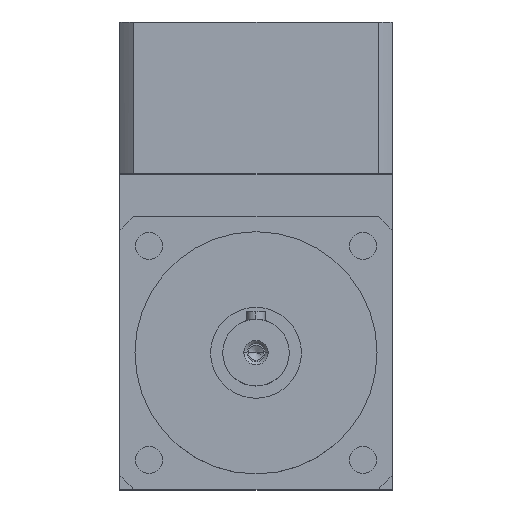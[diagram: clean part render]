
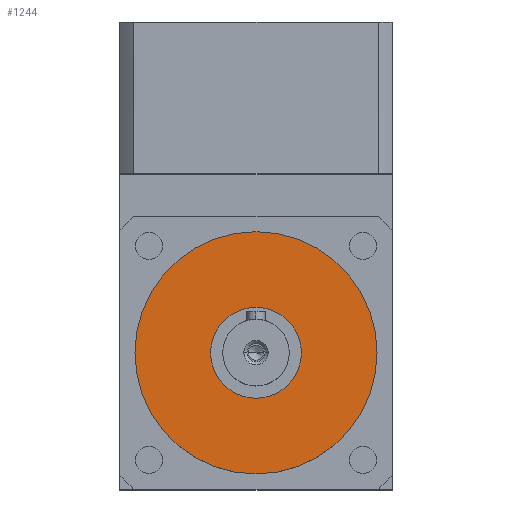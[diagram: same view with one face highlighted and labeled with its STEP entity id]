
A CAD part, top view. The second image highlights one B-rep face of the part: STEP entity #1244.
In plain terms, the highlighted planar face has unit normal (0, 0, 1).
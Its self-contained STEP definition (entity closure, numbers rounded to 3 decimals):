
#18 = DIRECTION ( 'NONE',  ( -1., 0., 0. ) ) ;
#161 = CIRCLE ( 'NONE', #1043, 40. ) ;
#368 = CARTESIAN_POINT ( 'NONE',  ( -15., 0., 10. ) ) ;
#459 = AXIS2_PLACEMENT_3D ( 'NONE', #3508, #1444, #3870 ) ;
#463 = DIRECTION ( 'NONE',  ( 0., 0., -1. ) ) ;
#525 = CARTESIAN_POINT ( 'NONE',  ( 0., 0., 10. ) ) ;
#537 = CARTESIAN_POINT ( 'NONE',  ( 40., 0., 10. ) ) ;
#576 = EDGE_CURVE ( 'NONE', #592, #675, #2920, .T. ) ;
#592 = VERTEX_POINT ( 'NONE', #537 ) ;
#675 = VERTEX_POINT ( 'NONE', #2183 ) ;
#771 = DIRECTION ( 'NONE',  ( -1., 0., 0. ) ) ;
#1043 = AXIS2_PLACEMENT_3D ( 'NONE', #4149, #2084, #18 ) ;
#1077 = FACE_OUTER_BOUND ( 'NONE', #4476, .T. ) ;
#1244 = ADVANCED_FACE ( 'NONE', ( #3846, #1077 ), #4078, .F. ) ;
#1260 = AXIS2_PLACEMENT_3D ( 'NONE', #525, #463, #771 ) ;
#1358 = EDGE_CURVE ( 'NONE', #2059, #1923, #3304, .T. ) ;
#1444 = DIRECTION ( 'NONE',  ( 0., 0., -1. ) ) ;
#1496 = EDGE_CURVE ( 'NONE', #1923, #2059, #2053, .T. ) ;
#1499 = CARTESIAN_POINT ( 'NONE',  ( 15., 0., 10. ) ) ;
#1515 = ORIENTED_EDGE ( 'NONE', *, *, #2508, .F. ) ;
#1625 = ORIENTED_EDGE ( 'NONE', *, *, #576, .F. ) ;
#1923 = VERTEX_POINT ( 'NONE', #368 ) ;
#1927 = AXIS2_PLACEMENT_3D ( 'NONE', #2334, #2009, #4416 ) ;
#2009 = DIRECTION ( 'NONE',  ( 0., 0., -1. ) ) ;
#2053 = CIRCLE ( 'NONE', #459, 15. ) ;
#2059 = VERTEX_POINT ( 'NONE', #1499 ) ;
#2065 = CARTESIAN_POINT ( 'NONE',  ( 0., 0., 10. ) ) ;
#2084 = DIRECTION ( 'NONE',  ( 0., 0., -1. ) ) ;
#2183 = CARTESIAN_POINT ( 'NONE',  ( -40., 0., 10. ) ) ;
#2334 = CARTESIAN_POINT ( 'NONE',  ( 0., 0., 10. ) ) ;
#2405 = DIRECTION ( 'NONE',  ( -1., 0., 0. ) ) ;
#2462 = ORIENTED_EDGE ( 'NONE', *, *, #1358, .T. ) ;
#2508 = EDGE_CURVE ( 'NONE', #675, #592, #161, .T. ) ;
#2920 = CIRCLE ( 'NONE', #1260, 40. ) ;
#3093 = AXIS2_PLACEMENT_3D ( 'NONE', #2065, #4479, #2405 ) ;
#3304 = CIRCLE ( 'NONE', #3093, 15. ) ;
#3508 = CARTESIAN_POINT ( 'NONE',  ( 0., 0., 10. ) ) ;
#3829 = EDGE_LOOP ( 'NONE', ( #4396, #2462 ) ) ;
#3846 = FACE_BOUND ( 'NONE', #3829, .T. ) ;
#3870 = DIRECTION ( 'NONE',  ( -1., 0., 0. ) ) ;
#4078 = PLANE ( 'NONE',  #1927 ) ;
#4149 = CARTESIAN_POINT ( 'NONE',  ( 0., 0., 10. ) ) ;
#4396 = ORIENTED_EDGE ( 'NONE', *, *, #1496, .T. ) ;
#4416 = DIRECTION ( 'NONE',  ( -1., 0., 0. ) ) ;
#4476 = EDGE_LOOP ( 'NONE', ( #1515, #1625 ) ) ;
#4479 = DIRECTION ( 'NONE',  ( 0., 0., -1. ) ) ;
